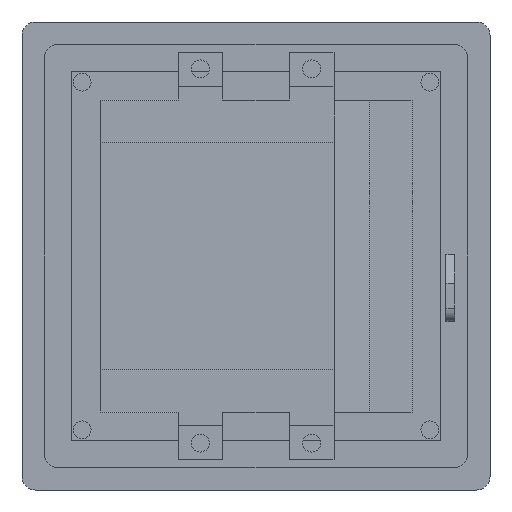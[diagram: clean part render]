
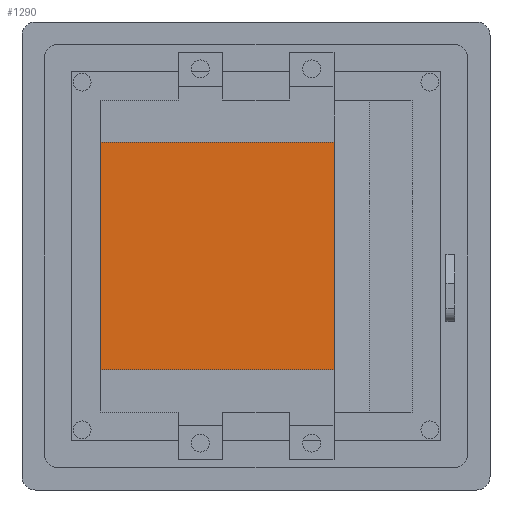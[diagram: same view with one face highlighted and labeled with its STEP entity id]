
A CAD part, front view. The second image highlights one B-rep face of the part: STEP entity #1290.
In plain terms, the highlighted planar face has unit normal (0, -1, 0).
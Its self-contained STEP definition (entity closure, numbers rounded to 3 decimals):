
#1290 = ADVANCED_FACE( '', ( #3352 ), #3353, .F. );
#1428 = EDGE_CURVE( '', #1506, #2778, #3514, .T. );
#1506 = VERTEX_POINT( '', #3600 );
#1528 = EDGE_CURVE( '', #1506, #1934, #3623, .T. );
#1792 = EDGE_CURVE( '', #2778, #2322, #3920, .T. );
#1934 = VERTEX_POINT( '', #4076 );
#2322 = VERTEX_POINT( '', #4513 );
#2602 = EDGE_CURVE( '', #2322, #1934, #4825, .T. );
#2778 = VERTEX_POINT( '', #5030 );
#3352 = FACE_OUTER_BOUND( '', #5703, .T. );
#3353 = PLANE( '', #5704 );
#3514 = LINE( '', #5914, #5915 );
#3600 = CARTESIAN_POINT( '', ( 17.5, 13.2, 25.5 ) );
#3623 = LINE( '', #6066, #6067 );
#3920 = LINE( '', #6446, #6447 );
#4076 = CARTESIAN_POINT( '', ( -35., 13.2, 25.5 ) );
#4513 = CARTESIAN_POINT( '', ( -35., 13.2, -25.5 ) );
#4825 = LINE( '', #7657, #7658 );
#5030 = CARTESIAN_POINT( '', ( 17.5, 13.2, -25.5 ) );
#5703 = EDGE_LOOP( '', ( #8637, #8638, #8639, #8640 ) );
#5704 = AXIS2_PLACEMENT_3D( '', #8641, #8642, #8643 );
#5914 = CARTESIAN_POINT( '', ( 17.5, 13.2, 4.75 ) );
#5915 = VECTOR( '', #8832, 1. );
#6066 = CARTESIAN_POINT( '', ( 35., 13.2, 25.5 ) );
#6067 = VECTOR( '', #8969, 1. );
#6446 = CARTESIAN_POINT( '', ( 35., 13.2, -25.5 ) );
#6447 = VECTOR( '', #9329, 1. );
#7657 = CARTESIAN_POINT( '', ( -35., 13.2, 4.75 ) );
#7658 = VECTOR( '', #10353, 1. );
#8637 = ORIENTED_EDGE( '', *, *, #1428, .F. );
#8638 = ORIENTED_EDGE( '', *, *, #1528, .T. );
#8639 = ORIENTED_EDGE( '', *, *, #2602, .F. );
#8640 = ORIENTED_EDGE( '', *, *, #1792, .F. );
#8641 = CARTESIAN_POINT( '', ( 35., 13.2, -25.5 ) );
#8642 = DIRECTION( '', ( 0., 1., 0. ) );
#8643 = DIRECTION( '', ( 0., 0., -1. ) );
#8832 = DIRECTION( '', ( 0., 0., -1. ) );
#8969 = DIRECTION( '', ( -1., 0., 0. ) );
#9329 = DIRECTION( '', ( -1., 0., 0. ) );
#10353 = DIRECTION( '', ( 0., 0., 1. ) );
